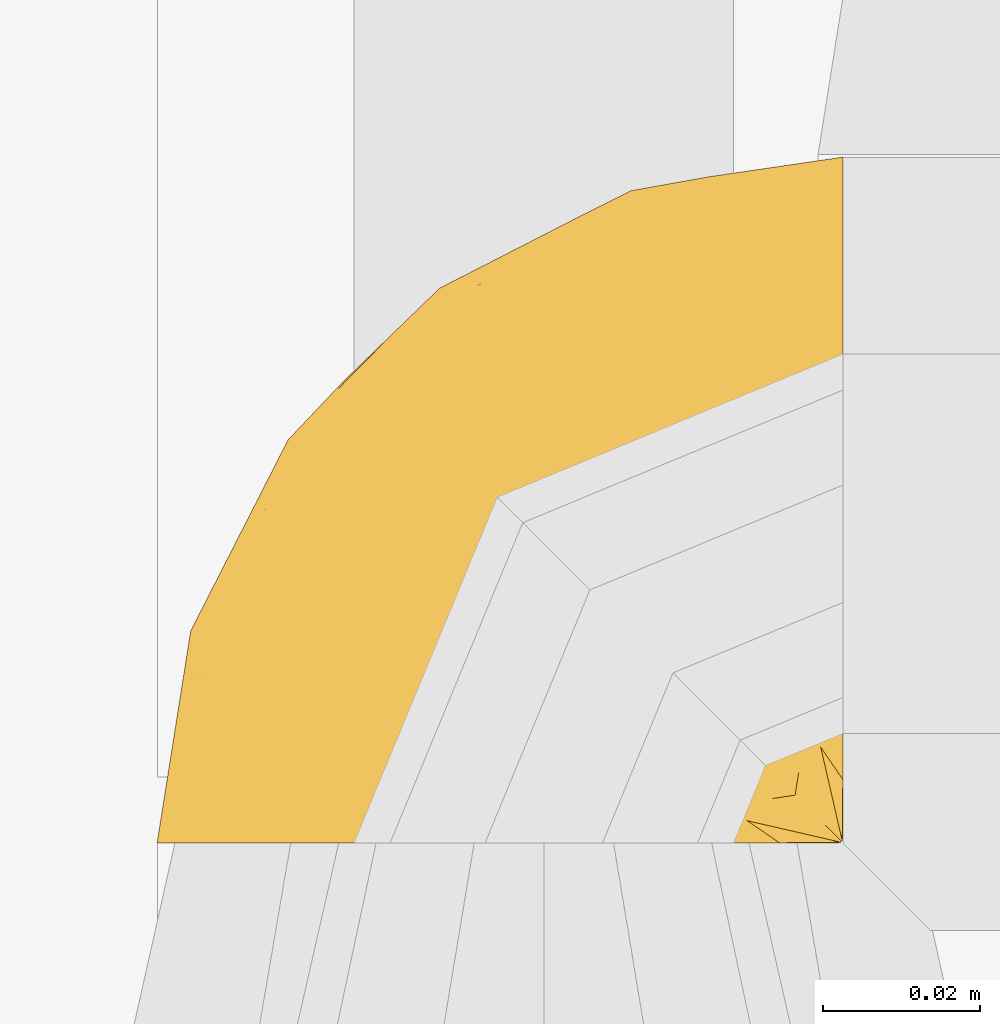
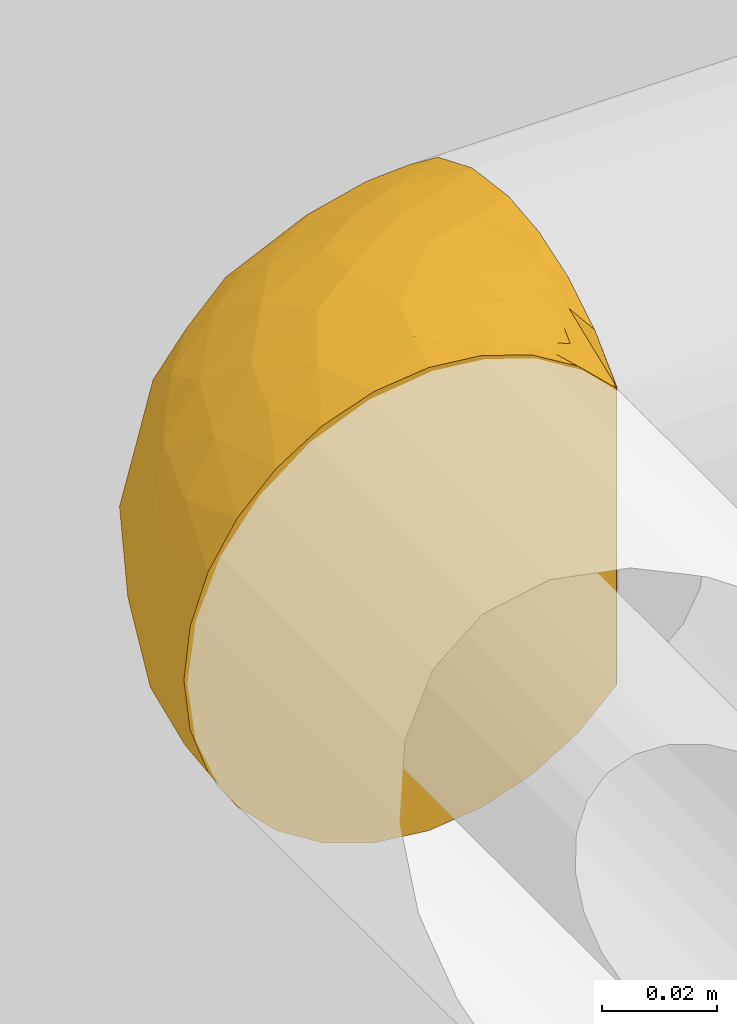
# One storey, part 32 of 94: 1 covering.
"""IFC2X3 building model written with IfcOpenShell, lengths in millimetres."""

from ifc_helpers import new_model, entity, si_unit, converted_unit, derived_unit, direction, frame, origin, place, context, subcontext, project, spatial, faceted_brep, material, element, save


model = new_model("IFC2X3")

# Units and contexts
model_context = context("Model", 3, precision=0.01, world=origin(), true_north=direction((6.123031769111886e-17, 1.0)))
body_context = subcontext(model_context, "Body", "Model", "MODEL_VIEW")
ifc_project = project(units=[si_unit("LENGTHUNIT", "METRE", prefix="MILLI"), si_unit("AREAUNIT", "SQUARE_METRE"), si_unit("VOLUMEUNIT", "CUBIC_METRE"), converted_unit("PLANEANGLEUNIT", "DEGREE", entity("IfcRatioMeasure", 0.017453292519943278), si_unit("PLANEANGLEUNIT", "RADIAN"), dimensions=[0, 0, 0, 0, 0, 0, 0]), si_unit("MASSUNIT", "GRAM", prefix="KILO"), derived_unit("MASSDENSITYUNIT", [(si_unit("MASSUNIT", "GRAM", prefix="KILO"), 1), (si_unit("LENGTHUNIT", "METRE"), -3)]), derived_unit("IONCONCENTRATIONUNIT", [(si_unit("MASSUNIT", "GRAM", prefix="KILO"), 1), (si_unit("LENGTHUNIT", "METRE"), -3)]), derived_unit("MOMENTOFINERTIAUNIT", [(si_unit("LENGTHUNIT", "METRE"), 4)]), si_unit("TIMEUNIT", "SECOND"), si_unit("FREQUENCYUNIT", "HERTZ"), si_unit("THERMODYNAMICTEMPERATUREUNIT", "DEGREE_CELSIUS"), derived_unit("THERMALTRANSMITTANCEUNIT", [(si_unit("MASSUNIT", "GRAM", prefix="KILO"), 1), (si_unit("THERMODYNAMICTEMPERATUREUNIT", "KELVIN"), -1), (si_unit("TIMEUNIT", "SECOND"), -3)]), derived_unit("THERMALCONDUCTANCEUNIT", [(si_unit("MASSUNIT", "GRAM", prefix="KILO"), 1), (si_unit("THERMODYNAMICTEMPERATUREUNIT", "KELVIN"), -1), (si_unit("TIMEUNIT", "SECOND"), -3), (si_unit("LENGTHUNIT", "METRE"), 1)]), derived_unit("VOLUMETRICFLOWRATEUNIT", [(si_unit("LENGTHUNIT", "METRE"), 3), (si_unit("TIMEUNIT", "SECOND"), -1)]), derived_unit("MASSFLOWRATEUNIT", [(si_unit("MASSUNIT", "GRAM", prefix="KILO"), 1), (si_unit("TIMEUNIT", "SECOND"), -1)]), derived_unit("ROTATIONALFREQUENCYUNIT", [(si_unit("TIMEUNIT", "SECOND"), -1)]), si_unit("ELECTRICCURRENTUNIT", "AMPERE"), si_unit("ELECTRICVOLTAGEUNIT", "VOLT"), si_unit("POWERUNIT", "WATT"), si_unit("FORCEUNIT", "NEWTON", prefix="KILO"), si_unit("ILLUMINANCEUNIT", "LUX"), si_unit("LUMINOUSFLUXUNIT", "LUMEN"), si_unit("LUMINOUSINTENSITYUNIT", "CANDELA"), derived_unit("USERDEFINED", [(si_unit("MASSUNIT", "GRAM", prefix="KILO"), -1), (si_unit("LENGTHUNIT", "METRE"), -2), (si_unit("TIMEUNIT", "SECOND"), 3), (si_unit("LUMINOUSFLUXUNIT", "LUMEN"), 1)]), derived_unit("USERDEFINED", [(si_unit("MASSUNIT", "GRAM", prefix="KILO"), 1), (si_unit("TIMEUNIT", "SECOND"), -3), (si_unit("LENGTHUNIT", "METRE"), 3), (si_unit("ELECTRICCURRENTUNIT", "AMPERE"), -2)]), derived_unit("SOUNDPOWERUNIT", [(si_unit("MASSUNIT", "GRAM", prefix="KILO"), 1), (si_unit("TIMEUNIT", "SECOND"), -3), (si_unit("LENGTHUNIT", "METRE"), 2)]), derived_unit("SOUNDPRESSUREUNIT", [(si_unit("MASSUNIT", "GRAM", prefix="KILO"), 1), (si_unit("LENGTHUNIT", "METRE"), -1), (si_unit("TIMEUNIT", "SECOND"), -2)]), derived_unit("LINEARVELOCITYUNIT", [(si_unit("LENGTHUNIT", "METRE"), 1), (si_unit("TIMEUNIT", "SECOND"), -1)]), si_unit("PRESSUREUNIT", "PASCAL"), derived_unit("USERDEFINED", [(si_unit("MASSUNIT", "GRAM", prefix="KILO"), 1), (si_unit("LENGTHUNIT", "METRE"), -2), (si_unit("TIMEUNIT", "SECOND"), -2)]), derived_unit("LINEARFORCEUNIT", [(si_unit("MASSUNIT", "GRAM", prefix="KILO"), 1), (si_unit("TIMEUNIT", "SECOND"), -2)]), derived_unit("PLANARFORCEUNIT", [(si_unit("MASSUNIT", "GRAM", prefix="KILO"), 1), (si_unit("LENGTHUNIT", "METRE"), -1), (si_unit("TIMEUNIT", "SECOND"), -2)]), derived_unit("SPECIFICHEATCAPACITYUNIT", [(si_unit("THERMODYNAMICTEMPERATUREUNIT", "KELVIN"), -1), (si_unit("LENGTHUNIT", "METRE"), 2), (si_unit("TIMEUNIT", "SECOND"), -2)]), derived_unit("HEATINGVALUEUNIT", [(si_unit("LENGTHUNIT", "METRE"), 2), (si_unit("TIMEUNIT", "SECOND"), -2)]), derived_unit("VAPORPERMEABILITYUNIT", [(si_unit("LENGTHUNIT", "METRE"), -1), (si_unit("TIMEUNIT", "SECOND"), 1)]), derived_unit("DYNAMICVISCOSITYUNIT", [(si_unit("MASSUNIT", "GRAM", prefix="KILO"), 1), (si_unit("TIMEUNIT", "SECOND"), -1), (si_unit("LENGTHUNIT", "METRE"), -1)]), derived_unit("THERMALEXPANSIONCOEFFICIENTUNIT", [(si_unit("THERMODYNAMICTEMPERATUREUNIT", "KELVIN"), -1)]), derived_unit("MODULUSOFELASTICITYUNIT", [(si_unit("MASSUNIT", "GRAM", prefix="KILO"), 1), (si_unit("LENGTHUNIT", "METRE"), -1), (si_unit("TIMEUNIT", "SECOND"), -2)]), derived_unit("ISOTHERMALMOISTURECAPACITYUNIT", [(si_unit("LENGTHUNIT", "METRE"), 3), (si_unit("MASSUNIT", "GRAM", prefix="KILO"), -1)]), derived_unit("MOISTUREDIFFUSIVITYUNIT", [(si_unit("TIMEUNIT", "SECOND"), -1), (si_unit("LENGTHUNIT", "METRE"), 2)])], contexts=[model_context])

# Site, building, storey
site_placement = place(None, origin())
site = spatial("IfcSite", under=ifc_project, at=site_placement, Name="Default", CompositionType="ELEMENT")
building_placement = place(site_placement, origin())
building = spatial("IfcBuilding", under=site, at=building_placement, CompositionType="ELEMENT")
storey_placement = place(building_placement, origin())
storey = spatial("IfcBuildingStorey", under=building, at=storey_placement, Name="Niveau 0", CompositionType="ELEMENT", Elevation=0.0)

# Covering
ifc_material = material(Name="Isolation - Laine minérale")
covering_placement = place(storey_placement, frame((-7061.485954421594, 9235.880684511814, 1050.7452722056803)))
element("IfcCovering", 1, at=covering_placement, inside=storey, material=ifc_material, Name="Isolation des canalisations:Laine minérale", ObjectType="Isolation des canalisations:Laine minérale", PredefinedType="INSULATION", context=body_context, shape_type="Brep", body=[
    faceted_brep([(88.43169795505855, 1.595889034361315, -82.29611712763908), (71.53107438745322, 1.5985557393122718, -6.2068289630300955), (61.3838318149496, 1.5986765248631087, -2.760445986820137), (50.74520190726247, 1.5987173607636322, -1.5952722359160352), (39.80283507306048, 1.5986741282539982, -2.8288286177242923), (29.412071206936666, 1.59854664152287, -6.466416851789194), (20.09319706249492, 1.5983413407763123, -12.324278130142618), (12.312504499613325, 1.5980685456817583, -20.107960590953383), (6.459197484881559, 1.5977419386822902, -29.42706208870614), (2.826124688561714, 1.5973778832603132, -39.814682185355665), (1.595272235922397, 1.5969947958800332, -50.74534253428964), (2.8288286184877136, 1.5966112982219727, -61.68770936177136), (6.46641685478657, 1.5962471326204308, -72.0784732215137), (12.32427813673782, 1.5959205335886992, -81.39734736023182), (20.107960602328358, 1.5956478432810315, -89.17803991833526), (29.427062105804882, 1.5954427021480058, -95.03134692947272), (39.81468220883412, 1.5953153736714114, -98.66441972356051), (50.74534256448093, 1.5952722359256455, -99.8952721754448), (61.40442687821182, 1.5953132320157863, -98.72552772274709), (71.55263707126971, 1.5954342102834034, -95.27364592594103), (80.70902211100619, 1.595629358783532, -89.70545946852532), (88.43169445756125, 1.5959746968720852, -79.8518482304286), (88.43169191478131, 1.5960369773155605, -78.07479576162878), (88.4316893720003, 1.596099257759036, -76.29774329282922), (88.43168722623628, 1.5961518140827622, -74.79814983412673), (88.43168508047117, 1.5962043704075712, -73.29855637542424), (88.43168078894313, 1.5963094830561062, -70.29936945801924), (88.43167649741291, 1.5964145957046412, -67.30018254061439), (88.43167220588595, 1.5965197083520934, -64.30099562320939), (88.43166791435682, 1.5966248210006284, -61.3018087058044), (88.43166576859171, 1.5966773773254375, -59.8022152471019), (88.4316636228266, 1.5967299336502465, -58.302621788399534), (88.4316601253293, 1.5968155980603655, -55.85835289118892), (88.4316566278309, 1.5969012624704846, -53.414083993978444), (88.43165313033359, 1.5969869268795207, -50.96981509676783), (88.43164963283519, 1.597072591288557, -48.52554619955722), (88.43164613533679, 1.597158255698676, -46.08127730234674), (88.4316426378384, 1.597243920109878, -43.637008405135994), (88.43163914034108, 1.5973295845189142, -41.19273950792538), (88.43163564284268, 1.5974152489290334, -38.748470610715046), (88.4316321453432, 1.5975009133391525, -36.304201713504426), (88.43162864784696, 1.5975865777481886, -33.859932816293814), (88.43162515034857, 1.5976722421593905, -31.415663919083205), (88.43162165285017, 1.5977579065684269, -28.971395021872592), (88.43161815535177, 1.597843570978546, -26.527126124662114), (88.43161465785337, 1.597929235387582, -24.082857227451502), (88.43161116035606, 1.598014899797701, -21.638588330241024), (88.43160766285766, 1.5981005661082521, -19.19431943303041), (80.69229686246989, 1.5983606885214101, -11.772227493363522), (88.74531738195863, 1.909508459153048, -82.2961276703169), (88.74532799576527, 9.642320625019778, -89.71371524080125), (88.74533595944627, 18.79884992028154, -95.2792305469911), (88.74534089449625, 28.943895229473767, -98.72814994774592), (88.74534256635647, 39.595272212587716, -99.89654958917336), (88.74534017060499, 52.31628696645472, -98.22224978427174), (88.74533314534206, 64.17050297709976, -93.31255947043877), (88.74532196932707, 74.35007501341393, -85.50206592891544), (88.745307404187, 82.1612820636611, -75.32304138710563), (88.74529044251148, 87.07180327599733, -63.46916954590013), (88.7452722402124, 88.74699474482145, -50.74827218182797), (88.74525403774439, 87.07269493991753, -38.02725742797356), (88.74523707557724, 82.1630046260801, -26.17304141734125), (88.74522250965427, 74.35251108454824, -15.993469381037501), (88.74521133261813, 64.1734865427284, -8.182262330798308), (88.74520430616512, 52.31961470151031, -3.2717411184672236), (88.74520190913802, 39.598717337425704, -1.5965496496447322), (88.74520357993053, 28.947258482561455, -2.764202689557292), (88.74520851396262, 18.801971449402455, -6.212410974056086), (88.74521647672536, 9.645052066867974, -11.777284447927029), (88.74522708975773, 1.9117199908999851, -19.19432997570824), (88.74523058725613, 1.911634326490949, -21.638598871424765), (88.74523273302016, 1.911581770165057, -23.138192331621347), (88.74523555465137, 1.9115126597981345, -25.110123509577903), (88.74523837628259, 1.9114435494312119, -27.082054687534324), (88.74524119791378, 1.9113744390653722, -29.05398586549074), (88.745244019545, 1.9113053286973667, -31.025917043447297), (88.74524684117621, 1.911236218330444, -32.99784822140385), (88.74524966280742, 1.9111671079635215, -34.96977939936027), (88.74525248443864, 1.911097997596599, -36.94171057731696), (88.74525530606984, 1.9110288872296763, -38.91364175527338), (88.74525812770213, 1.910959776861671, -40.88557293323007), (88.74526094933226, 1.9108906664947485, -42.85750411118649), (88.74526377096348, 1.910821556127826, -44.82943528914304), (88.74526659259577, 1.9107524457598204, -46.8013664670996), (88.74526941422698, 1.9106833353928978, -48.77329764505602), (88.74527223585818, 1.9106142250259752, -50.745228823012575), (88.7452750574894, 1.9105451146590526, -52.71716000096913), (88.74527787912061, 1.91047600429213, -54.68909117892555), (88.7452807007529, 1.9104068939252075, -56.66102235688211), (88.74528352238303, 1.9103377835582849, -58.632953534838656), (88.74528634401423, 1.9102686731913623, -60.60488471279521), (88.74528916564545, 1.9101995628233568, -62.57681589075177), (88.74529198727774, 1.9101304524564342, -64.54874706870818), (88.74529480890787, 1.9100613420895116, -66.52067824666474), (88.74529910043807, 1.9099562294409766, -69.51986516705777), (88.74530339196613, 1.9098511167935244, -72.51905208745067), (88.74530688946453, 1.9097654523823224, -74.96332098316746), (88.74531038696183, 1.9096797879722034, -77.407589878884), (88.74531388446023, 1.909594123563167, -79.85185877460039), (88.5308969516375, 1.8260155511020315, -47.737158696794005), (88.5221067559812, 1.8173849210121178, -49.657732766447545), (88.5212064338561, 1.8168213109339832, -40.01759644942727), (88.52776164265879, 1.8233959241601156, -37.92767290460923), (88.54092925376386, 1.8348050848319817, -53.489471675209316), (88.53502661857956, 1.8306679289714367, -24.240504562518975), (88.49126287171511, 1.7820504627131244, -20.791358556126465), (88.51811481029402, 1.8129240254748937, -59.052426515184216), (88.52354971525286, 1.817779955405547, -78.62972154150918), (88.52551875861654, 1.8197987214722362, -76.79028177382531), (88.51650325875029, 1.8122762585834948, -30.120408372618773), (88.52671078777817, 1.822738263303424, -28.086659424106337), (88.50469913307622, 1.7979626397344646, -57.08049481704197), (88.529665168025, 1.8242796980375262, -63.56277927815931), (88.53319172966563, 1.8276362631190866, -61.67741306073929), (88.5158744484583, 1.8103083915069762, -65.53470995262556), (88.52914359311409, 1.8242154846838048, -51.731191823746), (88.52346923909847, 1.8197510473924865, -22.388392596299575), (88.52596052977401, 1.8200980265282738, -80.46292323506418), (88.5366420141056, 1.8313331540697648, -45.815397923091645), (88.53745486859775, 1.8324844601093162, -33.98381093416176), (88.5327106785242, 1.828131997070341, -35.87595146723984), (88.53428680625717, 1.8284293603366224, -67.38591756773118), (88.53369026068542, 1.8287378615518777, -43.938323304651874), (88.53489646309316, 1.8304828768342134, -26.096086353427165), (88.52346466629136, 1.819862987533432, -19.194327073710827), (88.49483464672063, 1.7507440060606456, -19.194324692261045), (88.46620462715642, 1.6816250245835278, -19.194322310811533), (88.52355495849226, 1.8176514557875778, -82.29612476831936), (88.59267393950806, 1.8462814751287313, -82.29612567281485), (88.66179292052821, 1.874911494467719, -82.29612657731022), (88.51003299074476, 1.8037269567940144, -69.2783403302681), (88.53039810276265, 1.826118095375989, -32.05490616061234), (88.52247406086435, 1.8175525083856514, -55.24221014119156), (88.52469173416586, 1.8202517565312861, -41.999884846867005), (88.50582380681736, 1.7987491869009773, -72.07124547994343), (88.52747478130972, 1.821803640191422, -74.04836110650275), (88.66170262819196, 1.877123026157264, -19.194328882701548), (88.59258364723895, 1.8484930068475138, -19.194327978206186), (88.46629491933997, 1.6794134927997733, -82.29612000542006), (85.22086815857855, 23.495311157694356, -97.2809787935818), (85.9361708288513, 13.748006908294, -92.74674012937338), (81.0781450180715, 22.40987150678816, -97.28094671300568), (83.1329507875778, 10.56281568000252, -91.5352285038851), (79.2453425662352, 37.04975488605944, -99.8964739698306), (81.28897256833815, 37.597343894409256, -99.89649023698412), (55.836377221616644, 20.595272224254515, -99.89593078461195), (66.39559843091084, 16.020196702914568, -98.55552973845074), (67.94047061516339, 9.261769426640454, -97.27733640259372), (69.7453425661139, 34.50423755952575, -99.89639835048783), (80.67384305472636, 9.668171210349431, -92.08547873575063), (79.78897928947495, 7.203205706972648, -91.52721189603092), (74.32116199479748, 23.944793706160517, -98.55565213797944), (66.85477251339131, 5.1194824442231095, -97.27719271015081), (76.60342369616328, 4.403143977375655, -92.73995091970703), (79.64918382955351, 17.541649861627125, -95.80043413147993), (52.743270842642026, 9.051642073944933, -99.89553064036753), (53.290859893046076, 11.095272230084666, -99.8956014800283), (73.61175113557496, 16.72896062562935, -97.00842242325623), (62.790859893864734, 27.549754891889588, -99.89616456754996), (73.8799496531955, 12.071705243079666, -95.72482117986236), (88.49492493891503, 1.7485324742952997, -82.29612238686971), (75.32920564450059, 47.62398655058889, -98.88039735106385), (65.910810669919, 44.001478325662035, -98.83447721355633), (53.84767084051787, 58.90003308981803, -90.36096998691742), (59.13655455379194, 72.66838876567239, -80.66837539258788), (71.16617825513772, 67.20191248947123, -89.74085976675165), (67.00551769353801, 54.07997338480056, -96.15576814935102), (78.88057785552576, 57.54123863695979, -96.15587203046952), (37.51978750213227, 72.10282581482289, -50.747762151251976), (61.814441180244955, 84.48157014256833, -50.748161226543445), (53.87521627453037, 80.24937134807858, -61.15355696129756), (25.785003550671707, 13.851700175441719, -92.36676639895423), (36.24424915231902, 15.165381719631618, -97.13999543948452), (29.56290826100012, 60.77874668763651, -68.84569463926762), (30.770720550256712, 55.386613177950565, -77.7235488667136), (15.292244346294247, 43.89856752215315, -65.87675963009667), (71.31387138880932, 86.12788650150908, -59.797343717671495), (47.24105637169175, 73.2326969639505, -70.98324234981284), (43.50393453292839, 64.74809199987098, -79.74433766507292), (75.28989538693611, 77.40440535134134, -80.66851819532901), (67.102757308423, 82.14823312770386, -69.55696137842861), (37.09925068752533, 52.8296197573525, -85.50801342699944), (44.51523588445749, 48.879242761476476, -91.98250713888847), (33.70483262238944, 40.60756466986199, -90.08616688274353), (44.05176198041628, 28.77002776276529, -97.76797419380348), (30.0441408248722, 27.448709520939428, -92.36723729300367), (18.312387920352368, 19.800869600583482, -85.50688110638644), (5.860696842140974, 28.527825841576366, -50.746280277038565), (7.041429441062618, 22.716775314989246, -66.98599607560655), (25.61451574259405, 42.318079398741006, -82.95607276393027), (15.886953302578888, 33.684633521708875, -76.90352478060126), (10.60044670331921, 16.80777924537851, -76.90294110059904), (38.50380086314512, 71.07989408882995, -62.41713831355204), (25.34519264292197, 60.33391998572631, -59.14645441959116), (53.16357307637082, 33.37335537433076, -98.92840265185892), (18.239441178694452, 52.822479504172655, -50.74711402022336), (52.694764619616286, 43.46553925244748, -96.76955973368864), (58.17586535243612, 79.2025563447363, -31.93909261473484), (71.70090008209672, 86.24692041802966, -41.90837333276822), (54.57432022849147, 80.84011232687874, -41.627890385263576), (42.49802874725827, 72.53042217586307, -35.35514521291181), (75.06232798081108, 83.87636054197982, -31.939231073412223), (24.5250914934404, 35.80160112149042, -15.998458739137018), (25.78630224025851, 48.023175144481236, -22.50361747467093), (15.878193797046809, 33.690006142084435, -24.604288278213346), (37.089742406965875, 52.84138954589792, -15.99941464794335), (35.71332267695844, 59.75866900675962, -23.205939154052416), (36.231442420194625, 15.17336460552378, -4.356249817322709), (70.53797254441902, 45.554829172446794, -2.539020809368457), (69.74520190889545, 34.507682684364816, -1.596398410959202), (79.24520190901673, 37.05320001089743, -1.596474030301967), (7.036276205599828, 22.716968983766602, -34.519608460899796), (69.24081835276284, 76.07991201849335, -20.827231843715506), (30.030452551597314, 27.45783256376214, -9.134553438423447), (25.770185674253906, 13.857189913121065, -9.134083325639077), (76.87534828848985, 68.47374795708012, -11.754261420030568), (74.00466948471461, 56.461747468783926, -5.338482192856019), (48.41042893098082, 68.09127972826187, -21.86803942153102), (62.62547470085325, 64.2958098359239, -11.754134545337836), (31.220764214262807, 66.01328601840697, -41.98467074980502), (29.56031951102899, 60.78255192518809, -32.658120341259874), (79.82660077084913, 48.02252652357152, -2.479494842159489), (10.591237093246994, 16.811748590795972, -24.60370407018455), (15.287225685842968, 43.90310563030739, -35.63555531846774), (18.299457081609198, 19.806622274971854, -15.998285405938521), (44.04980369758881, 28.790097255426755, -3.727621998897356), (55.836236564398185, 20.598717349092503, -1.595930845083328), (54.2352937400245, 35.48847289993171, -2.7024176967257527), (62.79071923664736, 27.55320001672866, -1.5961646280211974), (52.743130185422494, 9.055087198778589, -1.5955307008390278), (53.29071923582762, 11.098717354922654, -1.5956015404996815), (48.41205705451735, 53.166063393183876, -9.988494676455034), (64.14298166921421, 52.056408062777, -5.065462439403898), (40.10634198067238, 41.404246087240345, -8.34203531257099), (62.89066502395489, 40.724638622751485, -2.4085265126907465), (47.67272776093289, 60.91973677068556, -15.401552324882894), (55.38949251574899, 45.94394396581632, -4.813922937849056), (81.07801182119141, 22.413132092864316, -4.210970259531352), (78.26560061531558, 16.46755325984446, -5.764402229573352), (74.32066071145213, 23.946690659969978, -2.9366355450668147), (85.22073487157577, 23.498572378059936, -4.211002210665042), (85.93605070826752, 13.750950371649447, -8.744555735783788), (83.13251393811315, 10.568020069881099, -9.954401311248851), (82.68192371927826, 7.659726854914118, -11.377954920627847), (73.61699762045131, 16.726825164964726, -4.485846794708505), (79.75771302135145, 7.219670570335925, -9.941045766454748), (67.9183869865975, 9.26653874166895, -4.206518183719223), (76.58442997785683, 4.409073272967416, -8.739131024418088), (66.83328097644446, 5.122946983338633, -4.206374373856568), (66.39763919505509, 16.022025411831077, -2.9366140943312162), (72.78376151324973, 10.695448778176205, -5.68500049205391)], [[[0, 1, 2, 3, 4, 5, 6, 7, 8, 9, 10, 11, 12, 13, 14, 15, 16, 17, 18, 19, 20]], [[1, 21, 22, 23, 24, 25, 26, 27, 28, 29, 30, 31, 32, 33, 34, 35, 36, 37, 38, 39, 40, 41, 42, 43, 44, 45, 46, 47, 48]], [[1, 0, 21]], [[49, 50, 51, 52, 53, 54, 55, 56, 57, 58, 59, 60, 61, 62, 63, 64, 65, 66, 67, 68, 69, 70, 71, 72, 73, 74, 75, 76, 77, 78, 79, 80, 81, 82, 83, 84, 85, 86, 87, 88, 89, 90, 91, 92, 93, 94, 95, 96, 97, 98]], [[99, 100, 84]], [[101, 102, 39]], [[86, 103, 87]], [[72, 71, 104]], [[105, 70, 69]], [[31, 30, 106]], [[22, 107, 108]], [[109, 74, 110]], [[32, 31, 111]], [[29, 112, 113]], [[108, 97, 96]], [[114, 93, 92]], [[103, 86, 115]], [[97, 107, 98]], [[116, 71, 70]], [[107, 21, 117]], [[79, 102, 101]], [[99, 118, 36]], [[77, 119, 120]], [[121, 93, 114]], [[112, 91, 113]], [[89, 111, 106]], [[44, 43, 110]], [[107, 97, 108]], [[36, 118, 122]], [[92, 91, 112]], [[41, 120, 119]], [[85, 115, 86]], [[70, 105, 116]], [[72, 123, 73]], [[105, 124, 125, 126]], [[117, 21, 0]], [[45, 116, 46]], [[117, 127, 128, 129, 49]], [[110, 123, 44]], [[46, 116, 105]], [[121, 27, 130]], [[28, 114, 112]], [[114, 28, 27]], [[104, 123, 72]], [[92, 112, 114]], [[104, 116, 45]], [[28, 112, 29]], [[110, 73, 123]], [[40, 120, 41]], [[44, 123, 45]], [[75, 74, 109]], [[131, 76, 75]], [[119, 131, 41]], [[109, 110, 43]], [[109, 43, 42]], [[74, 73, 110]], [[123, 104, 45]], [[116, 104, 71]], [[30, 29, 113]], [[113, 90, 106]], [[88, 87, 132]], [[113, 106, 30]], [[77, 76, 119]], [[132, 111, 88]], [[106, 111, 31]], [[132, 32, 111]], [[88, 111, 89]], [[89, 106, 90]], [[113, 91, 90]], [[131, 119, 76]], [[42, 41, 131]], [[120, 40, 102]], [[131, 109, 42]], [[109, 131, 75]], [[79, 78, 102]], [[78, 120, 102]], [[78, 77, 120]], [[122, 81, 133]], [[40, 39, 102]], [[37, 122, 133]], [[80, 79, 101]], [[38, 101, 39]], [[132, 33, 32]], [[81, 80, 133]], [[33, 103, 115]], [[34, 33, 115]], [[87, 103, 132]], [[100, 115, 85]], [[35, 34, 100]], [[115, 100, 34]], [[36, 35, 99]], [[118, 82, 122]], [[100, 85, 84]], [[99, 83, 118]], [[82, 118, 83]], [[37, 36, 122]], [[83, 99, 84]], [[100, 99, 35]], [[38, 37, 133]], [[122, 82, 81]], [[133, 101, 38]], [[101, 133, 80]], [[134, 95, 94]], [[27, 121, 114]], [[132, 103, 33]], [[121, 94, 93]], [[94, 121, 130]], [[98, 107, 117]], [[108, 24, 23, 22]], [[25, 135, 134]], [[24, 135, 25]], [[134, 135, 95]], [[108, 96, 135]], [[108, 135, 24]], [[135, 96, 95]], [[134, 26, 25]], [[130, 26, 134]], [[46, 105, 47]], [[105, 69, 136, 137, 124]], [[98, 117, 49]], [[117, 0, 138]], [[22, 21, 107]], [[94, 130, 134]], [[26, 130, 27]], [[139, 140, 141]], [[142, 129, 128, 127]], [[52, 143, 144, 53]], [[145, 146, 147]], [[141, 148, 143]], [[149, 127, 150]], [[51, 139, 52]], [[141, 151, 148]], [[52, 139, 143]], [[129, 142, 140]], [[19, 18, 152]], [[147, 150, 153]], [[154, 140, 142]], [[150, 138, 153]], [[19, 152, 153]], [[0, 20, 138]], [[18, 17, 155, 156]], [[151, 154, 157]], [[158, 157, 146]], [[156, 147, 152]], [[19, 153, 20]], [[50, 49, 129]], [[50, 129, 140]], [[140, 51, 50]], [[159, 147, 146]], [[145, 147, 156]], [[138, 20, 153]], [[149, 157, 154]], [[150, 127, 160, 138]], [[140, 139, 51]], [[143, 139, 141]], [[156, 152, 18]], [[153, 152, 147]], [[148, 151, 158]], [[159, 146, 157]], [[146, 145, 158]], [[154, 151, 141]], [[158, 151, 157]], [[127, 149, 142]], [[159, 149, 150]], [[149, 159, 157]], [[147, 159, 150]], [[140, 154, 141]], [[154, 142, 149]], [[155, 17, 16]], [[161, 148, 162]], [[163, 164, 165]], [[166, 167, 161]], [[168, 169, 170]], [[55, 165, 56]], [[171, 172, 15]], [[173, 174, 175]], [[58, 176, 59]], [[173, 177, 178]], [[179, 57, 56]], [[55, 167, 165]], [[170, 180, 177]], [[57, 179, 180]], [[167, 55, 54]], [[181, 182, 183]], [[184, 145, 172]], [[172, 185, 184]], [[186, 185, 171]], [[186, 14, 13]], [[172, 145, 156, 155]], [[172, 16, 15]], [[173, 178, 174]], [[11, 187, 188]], [[189, 186, 190]], [[191, 186, 13]], [[175, 190, 188]], [[168, 192, 193]], [[189, 190, 174]], [[57, 180, 58]], [[13, 12, 191]], [[188, 12, 11]], [[11, 10, 187]], [[190, 191, 188]], [[158, 194, 162]], [[175, 187, 195]], [[177, 180, 164]], [[15, 14, 171]], [[176, 180, 170]], [[155, 16, 172]], [[163, 165, 166]], [[179, 165, 164]], [[54, 53, 144]], [[185, 189, 183]], [[184, 196, 194]], [[188, 191, 12]], [[186, 191, 190]], [[186, 171, 14]], [[172, 171, 185]], [[187, 175, 188]], [[193, 175, 195]], [[196, 163, 166]], [[163, 181, 178]], [[162, 166, 161]], [[184, 185, 183]], [[178, 177, 164]], [[177, 192, 170]], [[177, 173, 192]], [[176, 170, 169]], [[59, 176, 169]], [[58, 180, 176]], [[193, 192, 173]], [[168, 170, 192]], [[175, 193, 173]], [[168, 193, 195]], [[163, 178, 164]], [[184, 194, 145]], [[178, 181, 174]], [[189, 174, 181]], [[175, 174, 190]], [[183, 189, 181]], [[186, 189, 185]], [[182, 181, 163]], [[183, 182, 184]], [[163, 196, 182]], [[184, 182, 196]], [[165, 179, 56]], [[180, 179, 164]], [[161, 54, 144]], [[165, 167, 166]], [[54, 161, 167]], [[161, 144, 143, 148]], [[158, 162, 148]], [[196, 166, 162]], [[162, 194, 196]], [[145, 194, 158]], [[197, 198, 199]], [[59, 169, 198]], [[197, 199, 200]], [[198, 197, 201]], [[202, 203, 204]], [[61, 60, 201]], [[205, 206, 203]], [[5, 4, 207]], [[208, 209, 210]], [[187, 9, 211]], [[201, 212, 61]], [[213, 214, 207]], [[62, 215, 63]], [[63, 215, 216]], [[8, 211, 9]], [[217, 218, 212]], [[219, 220, 200]], [[216, 208, 221]], [[8, 7, 222]], [[63, 216, 64]], [[62, 61, 212]], [[211, 8, 222]], [[10, 9, 187]], [[217, 197, 200]], [[203, 223, 204]], [[7, 6, 224]], [[225, 213, 207]], [[204, 222, 224]], [[6, 5, 214]], [[204, 224, 202]], [[207, 226, 225]], [[227, 226, 228]], [[223, 211, 204]], [[214, 224, 6]], [[202, 224, 213]], [[4, 3, 229]], [[207, 229, 230, 226]], [[211, 223, 187]], [[218, 231, 232]], [[4, 229, 207]], [[205, 233, 231]], [[233, 213, 225]], [[217, 212, 197]], [[215, 212, 218]], [[228, 234, 227]], [[233, 205, 202]], [[208, 234, 209]], [[64, 221, 65]], [[235, 205, 231]], [[207, 214, 5]], [[224, 214, 213]], [[224, 222, 7]], [[211, 222, 204]], [[219, 223, 220]], [[187, 223, 195]], [[227, 233, 225]], [[234, 228, 209]], [[231, 233, 236]], [[221, 208, 210]], [[232, 208, 216]], [[65, 221, 210]], [[216, 221, 64]], [[233, 202, 213]], [[203, 202, 205]], [[205, 235, 206]], [[223, 203, 220]], [[200, 206, 217]], [[220, 203, 206]], [[232, 231, 236]], [[235, 218, 217]], [[212, 215, 62]], [[216, 215, 218]], [[218, 232, 216]], [[234, 232, 236]], [[232, 234, 208]], [[234, 236, 227]], [[233, 227, 236]], [[226, 227, 225]], [[198, 201, 60]], [[212, 201, 197]], [[59, 198, 60]], [[198, 169, 199]], [[169, 168, 199]], [[219, 200, 199]], [[219, 199, 168]], [[200, 220, 206]], [[168, 195, 219]], [[223, 219, 195]], [[218, 235, 231]], [[206, 235, 217]], [[66, 65, 210]], [[209, 237, 210]], [[238, 237, 239]], [[67, 240, 241]], [[242, 136, 241]], [[243, 137, 242]], [[243, 244, 245]], [[66, 240, 67]], [[136, 69, 68]], [[136, 68, 241]], [[246, 226, 230]], [[247, 1, 48]], [[210, 237, 240]], [[1, 248, 2]], [[209, 239, 237]], [[246, 248, 247]], [[2, 248, 230]], [[67, 241, 68]], [[226, 246, 249]], [[239, 228, 244]], [[250, 247, 245]], [[48, 47, 126]], [[237, 242, 241]], [[249, 250, 244]], [[48, 126, 247]], [[2, 230, 229, 3]], [[245, 126, 125]], [[126, 245, 247]], [[243, 124, 137]], [[210, 240, 66]], [[241, 240, 237]], [[247, 248, 1]], [[230, 248, 246]], [[226, 249, 228]], [[238, 239, 244]], [[239, 209, 228]], [[250, 249, 246]], [[228, 249, 244]], [[243, 242, 238]], [[136, 242, 137]], [[124, 243, 125]], [[125, 243, 245]], [[243, 238, 244]], [[237, 238, 242]], [[247, 250, 246]], [[244, 250, 245]], [[105, 126, 47]], [[117, 138, 160, 127]]]),
])

save(model, "model.ifc")
